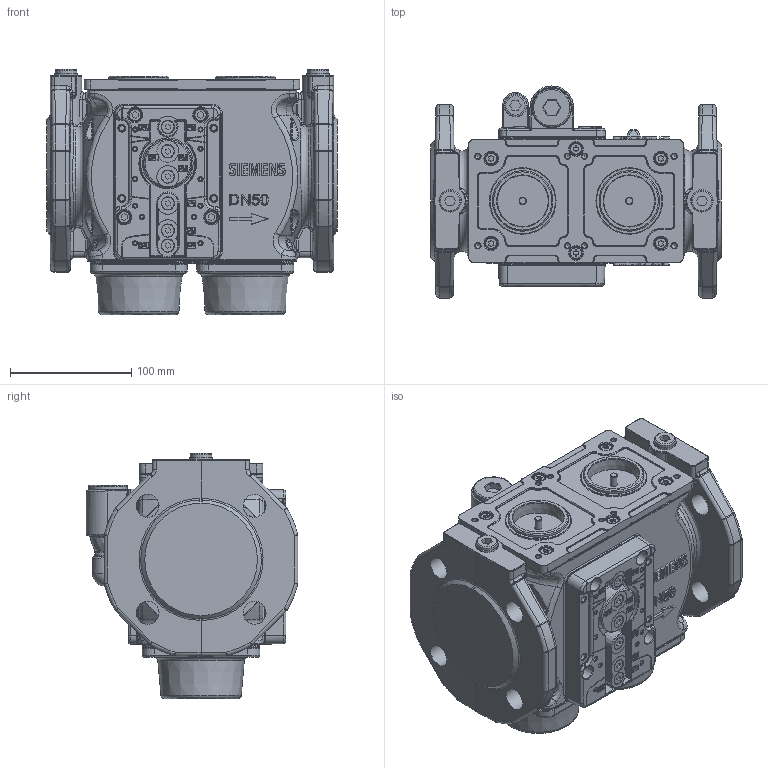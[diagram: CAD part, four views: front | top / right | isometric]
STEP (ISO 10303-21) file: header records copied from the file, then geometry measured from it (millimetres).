
FILE_DESCRIPTION(/* description */ (''),/* implementation_level */ '2;1');
FILE_NAME(/* name */ 'A5W00025079_B.stp',/* time_stamp */ '2018-06-26T11:32:56+02:00',/* author */ (''),/* organization */ (''),/* preprocessor_version */ 'ST-DEVELOPER v16',/* originating_system */ 'SIEMENS PLM Software NX 10.0',/* authorisation */ '');
FILE_SCHEMA (('AUTOMOTIVE_DESIGN { 1 0 10303 214 3 1 1 1 }'));
Products named in the file (1): Gant1EE462B7x3cu
Bounding box: 240 x 175 x 202.5 mm (x, y, z)
Volume: 4208134.8 mm3; surface area: 268684.1 mm2
Topology: 1 solids, 9 shells, 3035 faces, 7355 edges, 4446 vertices
Faces by surface type: plane 1126, cylinder 741, bspline 557, torus 242, cone 215, sphere 94, extrusion 60
Full cylindrical faces by diameter (mm): 4.2 x8, 5.5 x8, 6 x2, 10 x22, 10.5 x6, 11 x20, 13.5 x3, 18 x3, 18.5 x3, 19 x8, 27 x1, 32 x1, 32.5 x1, 50 x2, 54 x2
Entity records: 104397 total; most frequent: CARTESIAN_POINT 38527, ORIENTED_EDGE 13754, DIRECTION 13089, EDGE_CURVE 6877, AXIS2_PLACEMENT_3D 4971, VERTEX_POINT 4346, EDGE_LOOP 3537, VECTOR 3147
